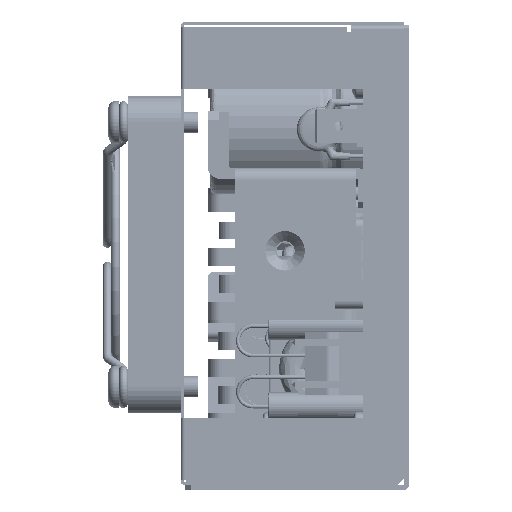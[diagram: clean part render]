
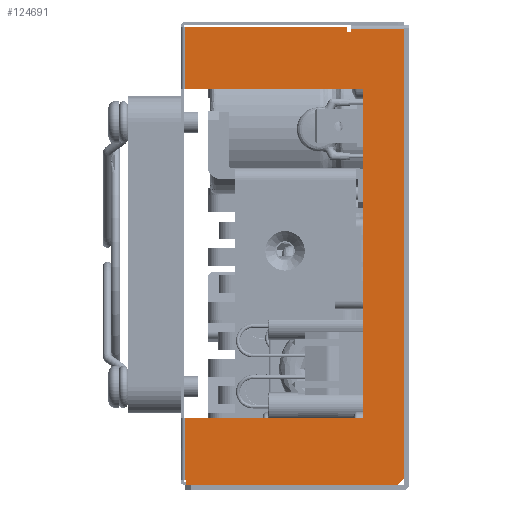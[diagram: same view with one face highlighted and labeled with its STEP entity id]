
A CAD part, left-side view. The second image highlights one B-rep face of the part: STEP entity #124691.
In plain terms, the highlighted planar face has unit normal (-1, 0, 0).
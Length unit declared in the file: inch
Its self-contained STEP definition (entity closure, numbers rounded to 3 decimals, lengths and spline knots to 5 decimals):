
#263 = CARTESIAN_POINT ( 'NONE',  ( -2.75, 1.664, -2.01178 ) ) ;
#1435 = CARTESIAN_POINT ( 'NONE',  ( -2.75, 1.239, -1.698 ) ) ;
#5281 = EDGE_CURVE ( 'NONE', #105337, #67139, #50196, .T. ) ;
#7872 = EDGE_CURVE ( 'NONE', #19284, #114759, #120848, .T. ) ;
#7925 = VECTOR ( 'NONE', #101773, 39.37008 ) ;
#8220 = FACE_OUTER_BOUND ( 'NONE', #84665, .T. ) ;
#9612 = EDGE_CURVE ( 'NONE', #117137, #109407, #48576, .T. ) ;
#9755 = VECTOR ( 'NONE', #11042, 39.37008 ) ;
#10129 = ORIENTED_EDGE ( 'NONE', *, *, #7872, .F. ) ;
#10542 = VECTOR ( 'NONE', #92805, 39.37008 ) ;
#11042 = DIRECTION ( 'NONE',  ( 0., -1., 0. ) ) ;
#11212 = DIRECTION ( 'NONE',  ( 0., 0., 1. ) ) ;
#13278 = VECTOR ( 'NONE', #40058, 39.37008 ) ;
#14432 = CARTESIAN_POINT ( 'NONE',  ( -2.75, 1.664, 1.665 ) ) ;
#15404 = VECTOR ( 'NONE', #42870, 39.37008 ) ;
#17552 = LINE ( 'NONE', #1435, #84082 ) ;
#17684 = ORIENTED_EDGE ( 'NONE', *, *, #91171, .F. ) ;
#18366 = DIRECTION ( 'NONE',  ( 0., 0., -1. ) ) ;
#18551 = VERTEX_POINT ( 'NONE', #88175 ) ;
#18757 = VECTOR ( 'NONE', #70049, 39.37008 ) ;
#19284 = VERTEX_POINT ( 'NONE', #57577 ) ;
#19722 = EDGE_CURVE ( 'NONE', #36314, #71562, #90897, .T. ) ;
#20813 = CARTESIAN_POINT ( 'NONE',  ( -2.75, 1.614, 1.715 ) ) ;
#21933 = LINE ( 'NONE', #130858, #18757 ) ;
#22052 = CARTESIAN_POINT ( 'NONE',  ( -2.75, 1.614, 1.715 ) ) ;
#27110 = CARTESIAN_POINT ( 'NONE',  ( -2.75, 1.614, 1.715 ) ) ;
#27946 = LINE ( 'NONE', #27110, #51591 ) ;
#30440 = ORIENTED_EDGE ( 'NONE', *, *, #46450, .F. ) ;
#30530 = ORIENTED_EDGE ( 'NONE', *, *, #127702, .F. ) ;
#33963 = EDGE_CURVE ( 'NONE', #19284, #86908, #120688, .T. ) ;
#34665 = VECTOR ( 'NONE', #95757, 39.37008 ) ;
#36314 = VERTEX_POINT ( 'NONE', #126767 ) ;
#36463 = LINE ( 'NONE', #57283, #114210 ) ;
#39037 = EDGE_CURVE ( 'NONE', #72124, #73681, #36463, .T. ) ;
#40058 = DIRECTION ( 'NONE',  ( 0., -1., 0. ) ) ;
#40400 = ORIENTED_EDGE ( 'NONE', *, *, #33963, .T. ) ;
#40812 = VERTEX_POINT ( 'NONE', #87317 ) ;
#41476 = CARTESIAN_POINT ( 'NONE',  ( -2.75, -2.65049, -1.678 ) ) ;
#42870 = DIRECTION ( 'NONE',  ( 0., 1., 0. ) ) ;
#46450 = EDGE_CURVE ( 'NONE', #36314, #18551, #21933, .T. ) ;
#48120 = EDGE_CURVE ( 'NONE', #18551, #117137, #17552, .T. ) ;
#48348 = CARTESIAN_POINT ( 'NONE',  ( -2.75, -2.65049, -5.99648 ) ) ;
#48576 = LINE ( 'NONE', #72998, #15404 ) ;
#50196 = LINE ( 'NONE', #112169, #80362 ) ;
#51214 = CARTESIAN_POINT ( 'NONE',  ( -2.75, 1.354, -1.232 ) ) ;
#51383 = DIRECTION ( 'NONE',  ( 0., -1., 0. ) ) ;
#51591 = VECTOR ( 'NONE', #108109, 39.37008 ) ;
#53196 = CARTESIAN_POINT ( 'NONE',  ( -2.75, 0.04164, 1.715 ) ) ;
#54808 = ORIENTED_EDGE ( 'NONE', *, *, #39037, .F. ) ;
#54928 = CARTESIAN_POINT ( 'NONE',  ( -2.75, 1.354, -1.232 ) ) ;
#55698 = DIRECTION ( 'NONE',  ( 0., 0., 1. ) ) ;
#56961 = VECTOR ( 'NONE', #83047, 39.37008 ) ;
#57283 = CARTESIAN_POINT ( 'NONE',  ( -2.75, 0.04164, 1.715 ) ) ;
#57577 = CARTESIAN_POINT ( 'NONE',  ( -2.75, 1.664, -1.678 ) ) ;
#61504 = LINE ( 'NONE', #54928, #34665 ) ;
#61635 = LINE ( 'NONE', #51214, #7925 ) ;
#61909 = CARTESIAN_POINT ( 'NONE',  ( -2.75, 1.264, -1.658 ) ) ;
#62080 = DIRECTION ( 'NONE',  ( 0., 0., -1. ) ) ;
#65125 = CARTESIAN_POINT ( 'NONE',  ( -2.75, 0.04164, 1.678 ) ) ;
#67139 = VERTEX_POINT ( 'NONE', #123481 ) ;
#69087 = ORIENTED_EDGE ( 'NONE', *, *, #5281, .T. ) ;
#70049 = DIRECTION ( 'NONE',  ( 0., 1., 0. ) ) ;
#71052 = DIRECTION ( 'NONE',  ( 0., 0., 1. ) ) ;
#71562 = VERTEX_POINT ( 'NONE', #126597 ) ;
#72124 = VERTEX_POINT ( 'NONE', #53196 ) ;
#72790 = CARTESIAN_POINT ( 'NONE',  ( -2.75, 0.03, -5.99648 ) ) ;
#72998 = CARTESIAN_POINT ( 'NONE',  ( -2.75, 1.264, -1.658 ) ) ;
#73681 = VERTEX_POINT ( 'NONE', #65125 ) ;
#75402 = ORIENTED_EDGE ( 'NONE', *, *, #87780, .T. ) ;
#76484 = ORIENTED_EDGE ( 'NONE', *, *, #83848, .T. ) ;
#78930 = CARTESIAN_POINT ( 'NONE',  ( -2.75, 1.264, -1.678 ) ) ;
#78934 = DIRECTION ( 'NONE',  ( -1., 0., 0. ) ) ;
#80362 = VECTOR ( 'NONE', #51383, 39.37008 ) ;
#80487 = ORIENTED_EDGE ( 'NONE', *, *, #19722, .T. ) ;
#83047 = DIRECTION ( 'NONE',  ( 0., 0., 1. ) ) ;
#83848 = EDGE_CURVE ( 'NONE', #112370, #105337, #61504, .T. ) ;
#84082 = VECTOR ( 'NONE', #11212, 39.37008 ) ;
#84665 = EDGE_LOOP ( 'NONE', ( #30440, #80487, #75402, #76484, #69087, #86541, #126408, #54808, #107177, #30530, #10129, #40400, #17684, #117817, #123133 ) ) ;
#84874 = CARTESIAN_POINT ( 'NONE',  ( -2.75, 1.239, -1.658 ) ) ;
#86541 = ORIENTED_EDGE ( 'NONE', *, *, #88405, .T. ) ;
#86908 = VERTEX_POINT ( 'NONE', #78930 ) ;
#87317 = CARTESIAN_POINT ( 'NONE',  ( -2.75, 0.03, 1.678 ) ) ;
#87702 = VERTEX_POINT ( 'NONE', #20813 ) ;
#87780 = EDGE_CURVE ( 'NONE', #71562, #112370, #61635, .T. ) ;
#88175 = CARTESIAN_POINT ( 'NONE',  ( -2.75, 1.239, -1.698 ) ) ;
#88405 = EDGE_CURVE ( 'NONE', #67139, #40812, #110979, .T. ) ;
#89124 = VECTOR ( 'NONE', #62080, 39.37008 ) ;
#90620 = VECTOR ( 'NONE', #71052, 39.37008 ) ;
#90897 = LINE ( 'NONE', #126710, #114699 ) ;
#91116 = CARTESIAN_POINT ( 'NONE',  ( -2.75, 1.354, 1.215 ) ) ;
#91171 = EDGE_CURVE ( 'NONE', #109407, #86908, #116133, .T. ) ;
#92301 = CARTESIAN_POINT ( 'NONE',  ( -2.75, 1.264, -2.01178 ) ) ;
#92805 = DIRECTION ( 'NONE',  ( 0., -1., 0. ) ) ;
#94041 = LINE ( 'NONE', #121232, #13278 ) ;
#94842 = CARTESIAN_POINT ( 'NONE',  ( -2.75, 1.354, -1.232 ) ) ;
#95757 = DIRECTION ( 'NONE',  ( 0., 0., 1. ) ) ;
#101773 = DIRECTION ( 'NONE',  ( 0., 1., 0. ) ) ;
#105337 = VERTEX_POINT ( 'NONE', #91116 ) ;
#107177 = ORIENTED_EDGE ( 'NONE', *, *, #127076, .F. ) ;
#107860 = AXIS2_PLACEMENT_3D ( 'NONE', #48348, #78934, #18366 ) ;
#108109 = DIRECTION ( 'NONE',  ( 0., -0.707, 0.707 ) ) ;
#109407 = VERTEX_POINT ( 'NONE', #61909 ) ;
#110979 = LINE ( 'NONE', #72790, #56961 ) ;
#112169 = CARTESIAN_POINT ( 'NONE',  ( -2.75, 1.354, 1.215 ) ) ;
#112370 = VERTEX_POINT ( 'NONE', #94842 ) ;
#114210 = VECTOR ( 'NONE', #128326, 39.37008 ) ;
#114699 = VECTOR ( 'NONE', #55698, 39.37008 ) ;
#114759 = VERTEX_POINT ( 'NONE', #14432 ) ;
#116133 = LINE ( 'NONE', #92301, #89124 ) ;
#117137 = VERTEX_POINT ( 'NONE', #84874 ) ;
#117817 = ORIENTED_EDGE ( 'NONE', *, *, #9612, .F. ) ;
#118271 = LINE ( 'NONE', #22052, #10542 ) ;
#119288 = PLANE ( 'NONE',  #107860 ) ;
#120688 = LINE ( 'NONE', #41476, #9755 ) ;
#120848 = LINE ( 'NONE', #263, #90620 ) ;
#121232 = CARTESIAN_POINT ( 'NONE',  ( -2.75, -0.00227, 1.678 ) ) ;
#123133 = ORIENTED_EDGE ( 'NONE', *, *, #48120, .F. ) ;
#123481 = CARTESIAN_POINT ( 'NONE',  ( -2.75, 0.03, 1.215 ) ) ;
#124189 = EDGE_CURVE ( 'NONE', #73681, #40812, #94041, .T. ) ;
#124691 = ADVANCED_FACE ( 'NONE', ( #8220 ), #119288, .T. ) ;
#126408 = ORIENTED_EDGE ( 'NONE', *, *, #124189, .F. ) ;
#126597 = CARTESIAN_POINT ( 'NONE',  ( -2.75, 0.03, -1.232 ) ) ;
#126710 = CARTESIAN_POINT ( 'NONE',  ( -2.75, 0.03, -5.99648 ) ) ;
#126767 = CARTESIAN_POINT ( 'NONE',  ( -2.75, 0.03, -1.698 ) ) ;
#127076 = EDGE_CURVE ( 'NONE', #87702, #72124, #118271, .T. ) ;
#127702 = EDGE_CURVE ( 'NONE', #114759, #87702, #27946, .T. ) ;
#128326 = DIRECTION ( 'NONE',  ( 0., 0., -1. ) ) ;
#130858 = CARTESIAN_POINT ( 'NONE',  ( -2.75, 1.239, -1.698 ) ) ;
